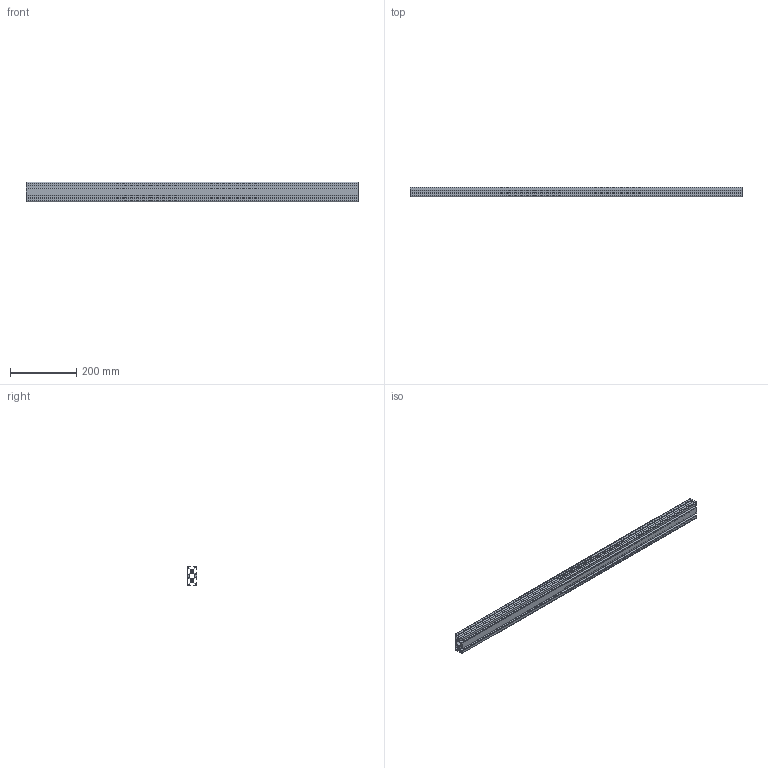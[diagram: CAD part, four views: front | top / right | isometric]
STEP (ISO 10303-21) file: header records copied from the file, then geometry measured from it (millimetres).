
FILE_DESCRIPTION (( 'STEP AP214' ), '1' );
FILE_NAME ('10418_PRO_8_60x30_2N.STEP', '2016-03-01T06:09:40', ( '' ), ( '' ), 'SwSTEP 2.0', 'SolidWorks 2015', '' );
FILE_SCHEMA (( 'AUTOMOTIVE_DESIGN' ));
Length unit declared in the file: millimetre
Products named in the file (1): 10418_PRO_8_60x30_2N
Bounding box: 1000 x 30 x 60 mm (x, y, z)
Volume: 710975 mm3; surface area: 502119.1 mm2
Topology: 1 solids, 1 shells, 100 faces, 294 edges, 196 vertices
Faces by surface type: cylinder 54, plane 46
Entity records: 3420 total; most frequent: DIRECTION 604, CARTESIAN_POINT 591, ORIENTED_EDGE 588, EDGE_CURVE 294, AXIS2_PLACEMENT_3D 209, VERTEX_POINT 196, LINE 186, VECTOR 186
